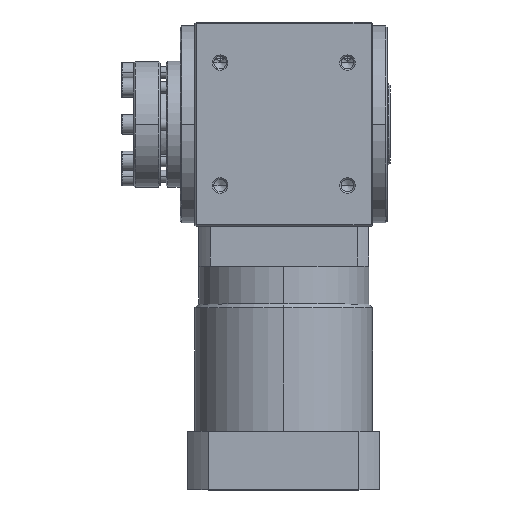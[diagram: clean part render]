
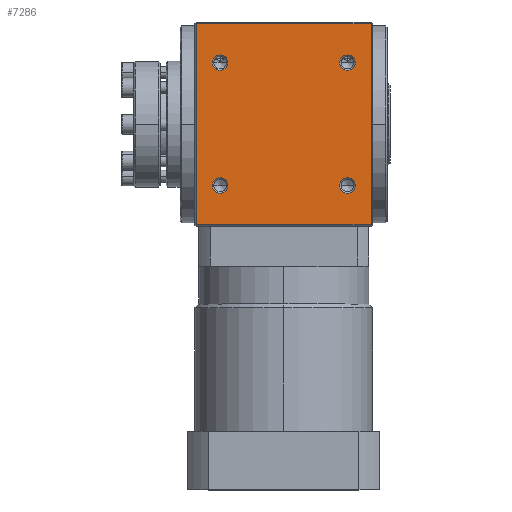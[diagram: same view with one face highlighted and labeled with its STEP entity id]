
A CAD part, top view. The second image highlights one B-rep face of the part: STEP entity #7286.
In plain terms, the highlighted planar face has unit normal (0, 0, 1).
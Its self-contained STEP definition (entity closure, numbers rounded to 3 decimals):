
#73 = DIRECTION ( 'NONE',  ( 1., 0., 0. ) ) ;
#102 = DIRECTION ( 'NONE',  ( 0., 0., 1. ) ) ;
#121 = CARTESIAN_POINT ( 'NONE',  ( 43., 41.5, 69. ) ) ;
#226 = CARTESIAN_POINT ( 'NONE',  ( 48.25, -41.5, 69. ) ) ;
#643 = DIRECTION ( 'NONE',  ( -1., 0., 0. ) ) ;
#736 = DIRECTION ( 'NONE',  ( 0., -1., 0. ) ) ;
#752 = EDGE_CURVE ( 'NONE', #1916, #4023, #3168, .T. ) ;
#764 = CARTESIAN_POINT ( 'NONE',  ( -43., -41.5, 69. ) ) ;
#800 = DIRECTION ( 'NONE',  ( 0., 0., 1. ) ) ;
#855 = DIRECTION ( 'NONE',  ( 1., 0., 0. ) ) ;
#866 = VERTEX_POINT ( 'NONE', #226 ) ;
#890 = CARTESIAN_POINT ( 'NONE',  ( 59., 68., 69. ) ) ;
#903 = EDGE_CURVE ( 'NONE', #2370, #4684, #13622, .T. ) ;
#1021 = DIRECTION ( 'NONE',  ( 0., 0., 1. ) ) ;
#1022 = ORIENTED_EDGE ( 'NONE', *, *, #4056, .F. ) ;
#1110 = EDGE_CURVE ( 'NONE', #9610, #13042, #7204, .T. ) ;
#1232 = ORIENTED_EDGE ( 'NONE', *, *, #11959, .F. ) ;
#1421 = CARTESIAN_POINT ( 'NONE',  ( 59., -68., 69. ) ) ;
#1442 = CIRCLE ( 'NONE', #7250, 5.25 ) ;
#1745 = VERTEX_POINT ( 'NONE', #11166 ) ;
#1916 = VERTEX_POINT ( 'NONE', #9344 ) ;
#1992 = FACE_BOUND ( 'NONE', #2286, .T. ) ;
#2286 = EDGE_LOOP ( 'NONE', ( #11778, #12664 ) ) ;
#2370 = VERTEX_POINT ( 'NONE', #2477 ) ;
#2477 = CARTESIAN_POINT ( 'NONE',  ( -48.25, -41.5, 69. ) ) ;
#2543 = EDGE_CURVE ( 'NONE', #13332, #1916, #7413, .T. ) ;
#2608 = EDGE_LOOP ( 'NONE', ( #14203, #10486 ) ) ;
#2618 = EDGE_CURVE ( 'NONE', #12873, #1745, #3017, .T. ) ;
#2795 = DIRECTION ( 'NONE',  ( 1., 0., 0. ) ) ;
#2833 = CARTESIAN_POINT ( 'NONE',  ( 37.75, -41.5, 69. ) ) ;
#2862 = DIRECTION ( 'NONE',  ( 0., 0., 1. ) ) ;
#2903 = CARTESIAN_POINT ( 'NONE',  ( 43., 41.5, 69. ) ) ;
#2950 = CARTESIAN_POINT ( 'NONE',  ( -59., -68., 69. ) ) ;
#3017 = CIRCLE ( 'NONE', #14444, 5.25 ) ;
#3168 = LINE ( 'NONE', #8788, #5825 ) ;
#3210 = CIRCLE ( 'NONE', #8206, 5.25 ) ;
#3309 = CARTESIAN_POINT ( 'NONE',  ( -43., 41.5, 69. ) ) ;
#3358 = DIRECTION ( 'NONE',  ( 0., 0., 1. ) ) ;
#3373 = DIRECTION ( 'NONE',  ( 1., 0., 0. ) ) ;
#3411 = EDGE_CURVE ( 'NONE', #13042, #9610, #1442, .T. ) ;
#3434 = CARTESIAN_POINT ( 'NONE',  ( -37.75, -41.5, 69. ) ) ;
#3584 = DIRECTION ( 'NONE',  ( 1., 0., 0. ) ) ;
#3639 = EDGE_CURVE ( 'NONE', #1745, #12873, #3745, .T. ) ;
#3664 = CARTESIAN_POINT ( 'NONE',  ( 43., -41.5, 69. ) ) ;
#3745 = CIRCLE ( 'NONE', #4424, 5.25 ) ;
#4023 = VERTEX_POINT ( 'NONE', #6508 ) ;
#4056 = EDGE_CURVE ( 'NONE', #13332, #8832, #8115, .T. ) ;
#4099 = DIRECTION ( 'NONE',  ( -1., 0., 0. ) ) ;
#4424 = AXIS2_PLACEMENT_3D ( 'NONE', #2903, #2862, #2795 ) ;
#4684 = VERTEX_POINT ( 'NONE', #3434 ) ;
#4751 = VECTOR ( 'NONE', #3584, 1000. ) ;
#4798 = DIRECTION ( 'NONE',  ( 1., 0., 0. ) ) ;
#4999 = FACE_BOUND ( 'NONE', #5382, .T. ) ;
#5014 = CARTESIAN_POINT ( 'NONE',  ( 59., 68., 69. ) ) ;
#5136 = ORIENTED_EDGE ( 'NONE', *, *, #2618, .F. ) ;
#5264 = AXIS2_PLACEMENT_3D ( 'NONE', #764, #800, #855 ) ;
#5311 = CARTESIAN_POINT ( 'NONE',  ( 59., -68., 69. ) ) ;
#5382 = EDGE_LOOP ( 'NONE', ( #12127, #5136 ) ) ;
#5593 = DIRECTION ( 'NONE',  ( 1., 0., 0. ) ) ;
#5598 = AXIS2_PLACEMENT_3D ( 'NONE', #2950, #10800, #4099 ) ;
#5625 = DIRECTION ( 'NONE',  ( 0., 0., 1. ) ) ;
#5644 = CARTESIAN_POINT ( 'NONE',  ( -43., 41.5, 69. ) ) ;
#5825 = VECTOR ( 'NONE', #6866, 1000. ) ;
#6067 = DIRECTION ( 'NONE',  ( 0., 0., 1. ) ) ;
#6461 = ORIENTED_EDGE ( 'NONE', *, *, #2543, .T. ) ;
#6508 = CARTESIAN_POINT ( 'NONE',  ( -59., -68., 69. ) ) ;
#6866 = DIRECTION ( 'NONE',  ( 0., -1., 0. ) ) ;
#6883 = AXIS2_PLACEMENT_3D ( 'NONE', #7795, #1021, #8911 ) ;
#6931 = ORIENTED_EDGE ( 'NONE', *, *, #752, .T. ) ;
#7204 = CIRCLE ( 'NONE', #12578, 5.25 ) ;
#7250 = AXIS2_PLACEMENT_3D ( 'NONE', #5644, #5625, #5593 ) ;
#7286 = ADVANCED_FACE ( 'NONE', ( #14082, #10968, #7992, #4999, #1992 ), #9627, .F. ) ;
#7413 = LINE ( 'NONE', #890, #13488 ) ;
#7795 = CARTESIAN_POINT ( 'NONE',  ( 43., -41.5, 69. ) ) ;
#7979 = ORIENTED_EDGE ( 'NONE', *, *, #13712, .T. ) ;
#7992 = FACE_BOUND ( 'NONE', #11472, .T. ) ;
#8115 = LINE ( 'NONE', #5311, #14205 ) ;
#8206 = AXIS2_PLACEMENT_3D ( 'NONE', #12841, #6067, #14010 ) ;
#8616 = ORIENTED_EDGE ( 'NONE', *, *, #14399, .F. ) ;
#8788 = CARTESIAN_POINT ( 'NONE',  ( -59., 68., 69. ) ) ;
#8832 = VERTEX_POINT ( 'NONE', #1421 ) ;
#8896 = AXIS2_PLACEMENT_3D ( 'NONE', #3664, #11546, #4798 ) ;
#8911 = DIRECTION ( 'NONE',  ( 1., 0., 0. ) ) ;
#9210 = CARTESIAN_POINT ( 'NONE',  ( -37.75, 41.5, 69. ) ) ;
#9344 = CARTESIAN_POINT ( 'NONE',  ( -59., 68., 69. ) ) ;
#9610 = VERTEX_POINT ( 'NONE', #9210 ) ;
#9627 = PLANE ( 'NONE',  #5598 ) ;
#9758 = CARTESIAN_POINT ( 'NONE',  ( -48.25, 41.5, 69. ) ) ;
#9843 = VERTEX_POINT ( 'NONE', #2833 ) ;
#10305 = CARTESIAN_POINT ( 'NONE',  ( 59., -68., 69. ) ) ;
#10338 = CIRCLE ( 'NONE', #6883, 5.25 ) ;
#10486 = ORIENTED_EDGE ( 'NONE', *, *, #903, .F. ) ;
#10716 = LINE ( 'NONE', #10305, #4751 ) ;
#10800 = DIRECTION ( 'NONE',  ( 0., 0., -1. ) ) ;
#10968 = FACE_BOUND ( 'NONE', #2608, .T. ) ;
#11166 = CARTESIAN_POINT ( 'NONE',  ( 48.25, 41.5, 69. ) ) ;
#11472 = EDGE_LOOP ( 'NONE', ( #8616, #1232 ) ) ;
#11546 = DIRECTION ( 'NONE',  ( 0., 0., 1. ) ) ;
#11778 = ORIENTED_EDGE ( 'NONE', *, *, #1110, .F. ) ;
#11845 = CIRCLE ( 'NONE', #8896, 5.25 ) ;
#11959 = EDGE_CURVE ( 'NONE', #9843, #866, #10338, .T. ) ;
#12127 = ORIENTED_EDGE ( 'NONE', *, *, #3639, .F. ) ;
#12578 = AXIS2_PLACEMENT_3D ( 'NONE', #3309, #3358, #3373 ) ;
#12664 = ORIENTED_EDGE ( 'NONE', *, *, #3411, .F. ) ;
#12796 = CARTESIAN_POINT ( 'NONE',  ( 37.75, 41.5, 69. ) ) ;
#12841 = CARTESIAN_POINT ( 'NONE',  ( -43., -41.5, 69. ) ) ;
#12873 = VERTEX_POINT ( 'NONE', #12796 ) ;
#12878 = EDGE_CURVE ( 'NONE', #4684, #2370, #3210, .T. ) ;
#13042 = VERTEX_POINT ( 'NONE', #9758 ) ;
#13332 = VERTEX_POINT ( 'NONE', #5014 ) ;
#13488 = VECTOR ( 'NONE', #643, 1000. ) ;
#13622 = CIRCLE ( 'NONE', #5264, 5.25 ) ;
#13712 = EDGE_CURVE ( 'NONE', #4023, #8832, #10716, .T. ) ;
#14010 = DIRECTION ( 'NONE',  ( 1., 0., 0. ) ) ;
#14082 = FACE_OUTER_BOUND ( 'NONE', #14568, .T. ) ;
#14203 = ORIENTED_EDGE ( 'NONE', *, *, #12878, .F. ) ;
#14205 = VECTOR ( 'NONE', #736, 1000. ) ;
#14399 = EDGE_CURVE ( 'NONE', #866, #9843, #11845, .T. ) ;
#14444 = AXIS2_PLACEMENT_3D ( 'NONE', #121, #102, #73 ) ;
#14568 = EDGE_LOOP ( 'NONE', ( #6461, #6931, #7979, #1022 ) ) ;
